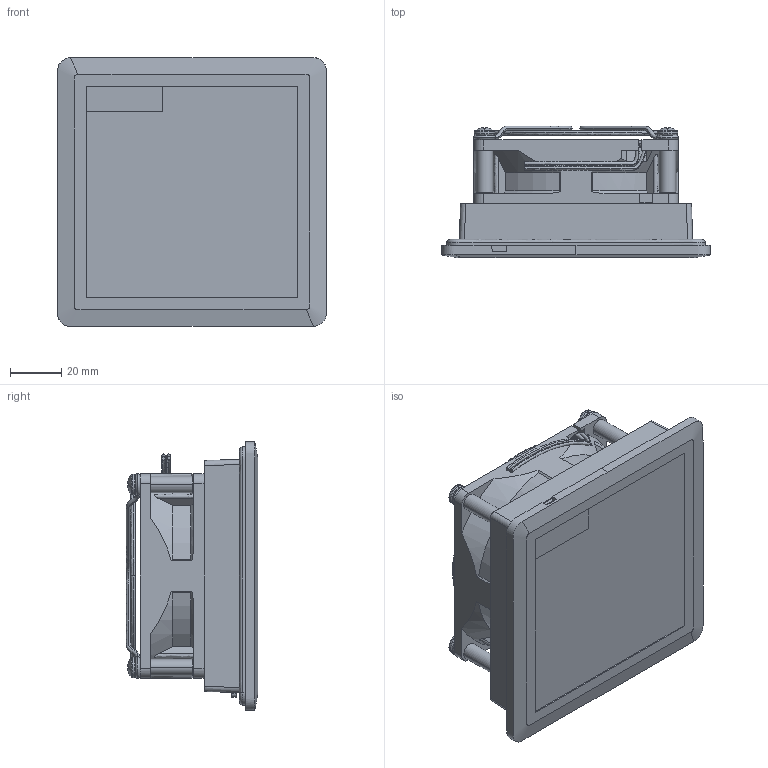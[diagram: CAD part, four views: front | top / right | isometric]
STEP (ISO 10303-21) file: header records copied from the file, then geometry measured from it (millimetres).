
FILE_DESCRIPTION(/* description */ (''),/* implementation_level */ '2;1');
FILE_NAME(/* name */ 'FPF08K~1',/* time_stamp */ '2019-06-04T12:22:40+02:00',/* author */ (''),/* organization */ (''),/* preprocessor_version */ 'ST-DEVELOPER v14',/* originating_system */ '',/* authorisation */ '');
FILE_SCHEMA (('AUTOMOTIVE_DESIGN'));
Length unit declared in the file: millimetre
Products named in the file (1): Document
Bounding box: 105 x 51.4 x 105 mm (x, y, z)
Volume: 9564.7 mm3; surface area: 50890.9 mm2
Topology: 16 solids, 21 shells, 344 faces, 920 edges, 608 vertices
Faces by surface type: bspline 182, plane 162
Entity records: 35250 total; most frequent: CARTESIAN_POINT 29745, ORIENTED_EDGE 1799, EDGE_CURVE 920, VERTEX_POINT 608, B_SPLINE_CURVE_WITH_KNOTS 491, EDGE_LOOP 381, ADVANCED_FACE 344, FACE_OUTER_BOUND 344
